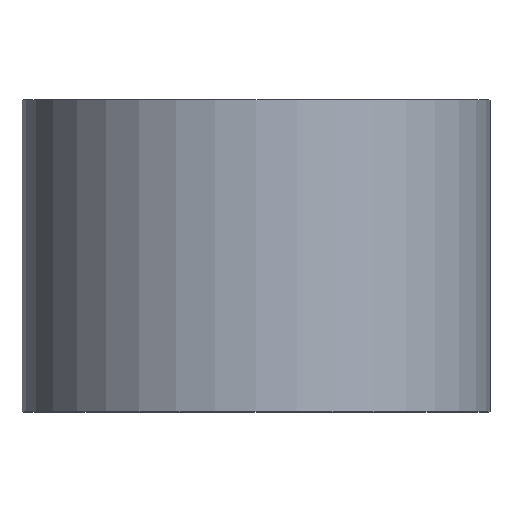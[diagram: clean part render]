
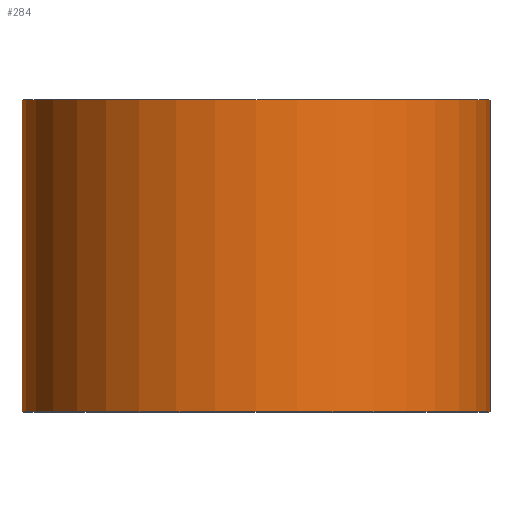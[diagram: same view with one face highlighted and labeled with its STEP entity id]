
A CAD part, top view. The second image highlights one B-rep face of the part: STEP entity #284.
In plain terms, the highlighted cylindrical face has radius 9 mm (diameter 18 mm), a partial arc.
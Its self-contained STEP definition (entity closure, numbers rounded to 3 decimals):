
#15 = VERTEX_POINT ( 'NONE', #244 ) ;
#20 = DIRECTION ( 'NONE',  ( 0., 1., 0. ) ) ;
#23 = ORIENTED_EDGE ( 'NONE', *, *, #144, .T. ) ;
#24 = DIRECTION ( 'NONE',  ( 0., 1., 0. ) ) ;
#27 = DIRECTION ( 'NONE',  ( -1., 0., 0. ) ) ;
#44 = LINE ( 'NONE', #274, #100 ) ;
#45 = AXIS2_PLACEMENT_3D ( 'NONE', #64, #87, #241 ) ;
#48 = CIRCLE ( 'NONE', #106, 9. ) ;
#51 = CARTESIAN_POINT ( 'NONE',  ( 0., 0., 0. ) ) ;
#58 = VERTEX_POINT ( 'NONE', #176 ) ;
#61 = VECTOR ( 'NONE', #20, 1000. ) ;
#64 = CARTESIAN_POINT ( 'NONE',  ( 0., 12., 0. ) ) ;
#70 = EDGE_CURVE ( 'NONE', #141, #143, #170, .T. ) ;
#78 = DIRECTION ( 'NONE',  ( 0., 1., 0. ) ) ;
#87 = DIRECTION ( 'NONE',  ( 0., 1., 0. ) ) ;
#100 = VECTOR ( 'NONE', #24, 1000. ) ;
#102 = FACE_OUTER_BOUND ( 'NONE', #178, .T. ) ;
#106 = AXIS2_PLACEMENT_3D ( 'NONE', #213, #165, #27 ) ;
#126 = CYLINDRICAL_SURFACE ( 'NONE', #237, 9. ) ;
#141 = VERTEX_POINT ( 'NONE', #251 ) ;
#143 = VERTEX_POINT ( 'NONE', #223 ) ;
#144 = EDGE_CURVE ( 'NONE', #58, #143, #220, .T. ) ;
#150 = ORIENTED_EDGE ( 'NONE', *, *, #246, .T. ) ;
#162 = ORIENTED_EDGE ( 'NONE', *, *, #224, .F. ) ;
#165 = DIRECTION ( 'NONE',  ( 0., 1., 0. ) ) ;
#170 = CIRCLE ( 'NONE', #45, 9. ) ;
#176 = CARTESIAN_POINT ( 'NONE',  ( 9., 0., 0. ) ) ;
#178 = EDGE_LOOP ( 'NONE', ( #150, #23, #204, #162 ) ) ;
#204 = ORIENTED_EDGE ( 'NONE', *, *, #70, .F. ) ;
#213 = CARTESIAN_POINT ( 'NONE',  ( 0., 0., 0. ) ) ;
#220 = LINE ( 'NONE', #222, #61 ) ;
#222 = CARTESIAN_POINT ( 'NONE',  ( 9., 0., 0. ) ) ;
#223 = CARTESIAN_POINT ( 'NONE',  ( 9., 12., 0. ) ) ;
#224 = EDGE_CURVE ( 'NONE', #15, #141, #44, .T. ) ;
#237 = AXIS2_PLACEMENT_3D ( 'NONE', #51, #78, #252 ) ;
#241 = DIRECTION ( 'NONE',  ( -1., 0., 0. ) ) ;
#244 = CARTESIAN_POINT ( 'NONE',  ( -9., 0., 0. ) ) ;
#246 = EDGE_CURVE ( 'NONE', #15, #58, #48, .T. ) ;
#251 = CARTESIAN_POINT ( 'NONE',  ( -9., 12., 0. ) ) ;
#252 = DIRECTION ( 'NONE',  ( -1., 0., 0. ) ) ;
#274 = CARTESIAN_POINT ( 'NONE',  ( -9., 0., 0. ) ) ;
#284 = ADVANCED_FACE ( 'NONE', ( #102 ), #126, .T. ) ;
